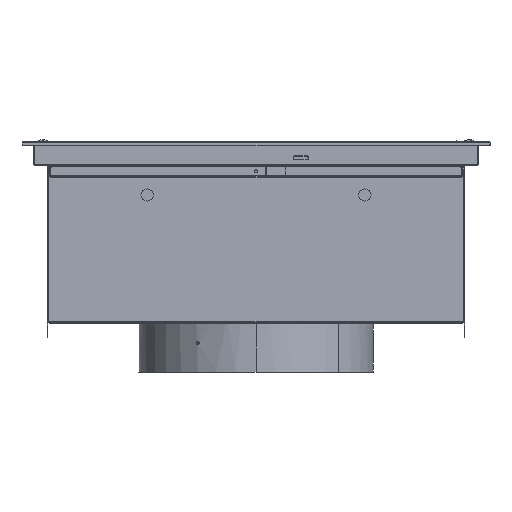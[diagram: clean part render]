
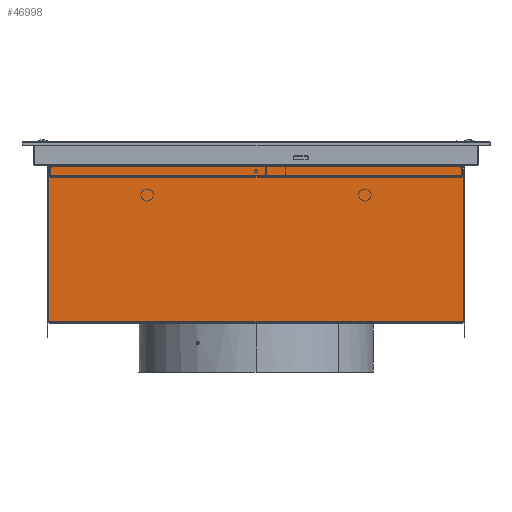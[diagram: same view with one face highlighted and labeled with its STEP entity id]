
A CAD part, left-side view. The second image highlights one B-rep face of the part: STEP entity #46998.
In plain terms, the highlighted planar face has unit normal (-1, 0, 0).
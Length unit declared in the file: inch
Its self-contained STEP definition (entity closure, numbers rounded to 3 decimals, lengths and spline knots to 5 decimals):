
#291 = DIRECTION ( 'NONE',  ( 0., 1., 0. ) ) ;
#1065 = DIRECTION ( 'NONE',  ( 0., -1., 0. ) ) ;
#1403 = DIRECTION ( 'NONE',  ( 0., 0., 1. ) ) ;
#1477 = AXIS2_PLACEMENT_3D ( 'NONE', #27658, #46900, #3301 ) ;
#2163 = CARTESIAN_POINT ( 'NONE',  ( -22.56225, -10.27664, -1.20739 ) ) ;
#3301 = DIRECTION ( 'NONE',  ( 0., 0., -1. ) ) ;
#3499 = LINE ( 'NONE', #15395, #42227 ) ;
#3785 = ORIENTED_EDGE ( 'NONE', *, *, #5216, .F. ) ;
#4364 = AXIS2_PLACEMENT_3D ( 'NONE', #43102, #26508, #10345 ) ;
#4616 = DIRECTION ( 'NONE',  ( 1., 0., 0. ) ) ;
#5174 = CARTESIAN_POINT ( 'NONE',  ( -22.56225, 10.52225, -9.137 ) ) ;
#5216 = EDGE_CURVE ( 'NONE', #24555, #15511, #20378, .T. ) ;
#5218 = EDGE_CURVE ( 'NONE', #19722, #28132, #36980, .T. ) ;
#5362 = CARTESIAN_POINT ( 'NONE',  ( -22.56225, -10.52225, -9.137 ) ) ;
#6010 = ORIENTED_EDGE ( 'NONE', *, *, #46976, .F. ) ;
#6694 = VERTEX_POINT ( 'NONE', #20562 ) ;
#7325 = DIRECTION ( 'NONE',  ( 0., 0., -1. ) ) ;
#7396 = CIRCLE ( 'NONE', #1477, 0.015 ) ;
#7590 = VERTEX_POINT ( 'NONE', #18681 ) ;
#7649 = CARTESIAN_POINT ( 'NONE',  ( -22.56225, -0.075, -1.5796 ) ) ;
#7881 = CARTESIAN_POINT ( 'NONE',  ( -22.56225, -10.50725, -1.45921 ) ) ;
#8053 = ORIENTED_EDGE ( 'NONE', *, *, #9496, .T. ) ;
#8638 = EDGE_CURVE ( 'NONE', #44943, #13071, #37493, .T. ) ;
#8679 = DIRECTION ( 'NONE',  ( 0., 1., 0. ) ) ;
#9496 = EDGE_CURVE ( 'NONE', #24555, #28267, #45511, .T. ) ;
#10345 = DIRECTION ( 'NONE',  ( 0., 0., -1. ) ) ;
#10505 = LINE ( 'NONE', #34544, #40082 ) ;
#10544 = ORIENTED_EDGE ( 'NONE', *, *, #32153, .T. ) ;
#10671 = AXIS2_PLACEMENT_3D ( 'NONE', #31628, #30863, #34782 ) ;
#10688 = CARTESIAN_POINT ( 'NONE',  ( -22.56225, -10.51786, -1.44861 ) ) ;
#10989 = LINE ( 'NONE', #51170, #44551 ) ;
#11171 = EDGE_CURVE ( 'NONE', #51298, #44346, #44542, .T. ) ;
#11517 = CARTESIAN_POINT ( 'NONE',  ( -22.56225, 0.075, -1.5046 ) ) ;
#11540 = AXIS2_PLACEMENT_3D ( 'NONE', #7881, #48298, #32711 ) ;
#11853 = EDGE_CURVE ( 'NONE', #7590, #6694, #7396, .T. ) ;
#13071 = VERTEX_POINT ( 'NONE', #40552 ) ;
#13294 = ORIENTED_EDGE ( 'NONE', *, *, #26187, .T. ) ;
#13372 = CARTESIAN_POINT ( 'NONE',  ( -22.56225, -10.26604, -1.203 ) ) ;
#13626 = FACE_BOUND ( 'NONE', #46700, .T. ) ;
#13846 = ORIENTED_EDGE ( 'NONE', *, *, #24161, .T. ) ;
#14137 = CARTESIAN_POINT ( 'NONE',  ( -22.56225, 10.56225, -1.203 ) ) ;
#14480 = DIRECTION ( 'NONE',  ( 0., 0., 1. ) ) ;
#14667 = DIRECTION ( 'NONE',  ( 0., -1., 0. ) ) ;
#15395 = CARTESIAN_POINT ( 'NONE',  ( -22.56225, -10.52225, -1.453 ) ) ;
#15511 = VERTEX_POINT ( 'NONE', #49667 ) ;
#15775 = DIRECTION ( 'NONE',  ( 1., 0., 0. ) ) ;
#16312 = VERTEX_POINT ( 'NONE', #2163 ) ;
#16411 = CARTESIAN_POINT ( 'NONE',  ( -22.56225, 10.56225, -1.203 ) ) ;
#16605 = AXIS2_PLACEMENT_3D ( 'NONE', #32634, #4616, #40813 ) ;
#16809 = CARTESIAN_POINT ( 'NONE',  ( -22.56225, -0.015, -1.203 ) ) ;
#17352 = DIRECTION ( 'NONE',  ( 0., 0., 1. ) ) ;
#17870 = CIRCLE ( 'NONE', #4364, 0.015 ) ;
#18681 = CARTESIAN_POINT ( 'NONE',  ( -22.56225, 10.51786, -1.44861 ) ) ;
#18712 = DIRECTION ( 'NONE',  ( 1., 0., 0. ) ) ;
#19722 = VERTEX_POINT ( 'NONE', #16809 ) ;
#20378 = LINE ( 'NONE', #36466, #51602 ) ;
#20562 = CARTESIAN_POINT ( 'NONE',  ( -22.56225, 10.52225, -1.45921 ) ) ;
#20842 = CIRCLE ( 'NONE', #11540, 0.015 ) ;
#21236 = AXIS2_PLACEMENT_3D ( 'NONE', #29788, #45840, #35257 ) ;
#22067 = VECTOR ( 'NONE', #1065, 39.37008 ) ;
#22087 = CARTESIAN_POINT ( 'NONE',  ( -22.56225, -10.52225, -1.45921 ) ) ;
#22541 = EDGE_CURVE ( 'NONE', #42830, #13071, #49820, .T. ) ;
#22678 = VERTEX_POINT ( 'NONE', #10688 ) ;
#22757 = ORIENTED_EDGE ( 'NONE', *, *, #33603, .T. ) ;
#23600 = ORIENTED_EDGE ( 'NONE', *, *, #38501, .T. ) ;
#24125 = CARTESIAN_POINT ( 'NONE',  ( -22.56225, 0.075, -1.5796 ) ) ;
#24126 = VECTOR ( 'NONE', #1403, 39.37008 ) ;
#24161 = EDGE_CURVE ( 'NONE', #22678, #16312, #3499, .T. ) ;
#24541 = ORIENTED_EDGE ( 'NONE', *, *, #43678, .T. ) ;
#24555 = VERTEX_POINT ( 'NONE', #51275 ) ;
#26187 = EDGE_CURVE ( 'NONE', #42830, #33365, #17870, .T. ) ;
#26504 = CARTESIAN_POINT ( 'NONE',  ( -22.56225, 10.27664, -1.20739 ) ) ;
#26508 = DIRECTION ( 'NONE',  ( -1., 0., 0. ) ) ;
#26615 = EDGE_CURVE ( 'NONE', #46414, #36874, #35633, .T. ) ;
#26631 = CIRCLE ( 'NONE', #40085, 0.113 ) ;
#27005 = DIRECTION ( 'NONE',  ( 0., 0., -1. ) ) ;
#27036 = ORIENTED_EDGE ( 'NONE', *, *, #11853, .T. ) ;
#27658 = CARTESIAN_POINT ( 'NONE',  ( -22.56225, 10.50725, -1.45921 ) ) ;
#27949 = EDGE_CURVE ( 'NONE', #19722, #44943, #26631, .T. ) ;
#28132 = VERTEX_POINT ( 'NONE', #13372 ) ;
#28267 = VERTEX_POINT ( 'NONE', #22087 ) ;
#28657 = CARTESIAN_POINT ( 'NONE',  ( -22.56225, 10.26604, -1.203 ) ) ;
#29028 = ORIENTED_EDGE ( 'NONE', *, *, #42161, .T. ) ;
#29313 = CIRCLE ( 'NONE', #10671, 0.015 ) ;
#29437 = ORIENTED_EDGE ( 'NONE', *, *, #27949, .T. ) ;
#29788 = CARTESIAN_POINT ( 'NONE',  ( -22.56225, 0., 0. ) ) ;
#30863 = DIRECTION ( 'NONE',  ( -1., 0., 0. ) ) ;
#30964 = LINE ( 'NONE', #47041, #42978 ) ;
#31528 = DIRECTION ( 'NONE',  ( 0., 0.707, 0.707 ) ) ;
#31628 = CARTESIAN_POINT ( 'NONE',  ( -22.56225, -10.26604, -1.218 ) ) ;
#32153 = EDGE_CURVE ( 'NONE', #28267, #22678, #20842, .T. ) ;
#32634 = CARTESIAN_POINT ( 'NONE',  ( -22.56225, 0., -1.5046 ) ) ;
#32711 = DIRECTION ( 'NONE',  ( 0., 0., -1. ) ) ;
#33365 = VERTEX_POINT ( 'NONE', #26504 ) ;
#33603 = EDGE_CURVE ( 'NONE', #16312, #28132, #29313, .T. ) ;
#33703 = PLANE ( 'NONE',  #21236 ) ;
#34544 = CARTESIAN_POINT ( 'NONE',  ( -22.56225, 0.075, -1.5046 ) ) ;
#34782 = DIRECTION ( 'NONE',  ( 0., 0., -1. ) ) ;
#35225 = ORIENTED_EDGE ( 'NONE', *, *, #22541, .F. ) ;
#35257 = DIRECTION ( 'NONE',  ( 0., 0., -1. ) ) ;
#35633 = LINE ( 'NONE', #44598, #49124 ) ;
#36466 = CARTESIAN_POINT ( 'NONE',  ( -22.56225, 10.56225, -9.137 ) ) ;
#36860 = ORIENTED_EDGE ( 'NONE', *, *, #11171, .T. ) ;
#36874 = VERTEX_POINT ( 'NONE', #24125 ) ;
#36980 = LINE ( 'NONE', #16411, #22067 ) ;
#37493 = CIRCLE ( 'NONE', #51032, 0.113 ) ;
#37655 = FACE_OUTER_BOUND ( 'NONE', #50296, .T. ) ;
#38501 = EDGE_CURVE ( 'NONE', #36874, #51298, #10505, .T. ) ;
#40028 = ORIENTED_EDGE ( 'NONE', *, *, #8638, .T. ) ;
#40082 = VECTOR ( 'NONE', #14480, 39.37008 ) ;
#40085 = AXIS2_PLACEMENT_3D ( 'NONE', #40595, #15775, #44817 ) ;
#40552 = CARTESIAN_POINT ( 'NONE',  ( -22.56225, 0.015, -1.203 ) ) ;
#40595 = CARTESIAN_POINT ( 'NONE',  ( -22.56225, 0., -1.091 ) ) ;
#40813 = DIRECTION ( 'NONE',  ( 0., 0., -1. ) ) ;
#41373 = LINE ( 'NONE', #5174, #45628 ) ;
#42123 = VECTOR ( 'NONE', #14667, 39.37008 ) ;
#42161 = EDGE_CURVE ( 'NONE', #44346, #46414, #30964, .T. ) ;
#42227 = VECTOR ( 'NONE', #31528, 39.37008 ) ;
#42830 = VERTEX_POINT ( 'NONE', #28657 ) ;
#42962 = CARTESIAN_POINT ( 'NONE',  ( -22.56225, 0., -1.204 ) ) ;
#42978 = VECTOR ( 'NONE', #27005, 39.37008 ) ;
#43102 = CARTESIAN_POINT ( 'NONE',  ( -22.56225, 10.26604, -1.218 ) ) ;
#43678 = EDGE_CURVE ( 'NONE', #33365, #7590, #10989, .T. ) ;
#44346 = VERTEX_POINT ( 'NONE', #46197 ) ;
#44542 = CIRCLE ( 'NONE', #16605, 0.075 ) ;
#44551 = VECTOR ( 'NONE', #50905, 39.37008 ) ;
#44598 = CARTESIAN_POINT ( 'NONE',  ( -22.56225, 0.075, -1.5796 ) ) ;
#44817 = DIRECTION ( 'NONE',  ( 0., 0., -1. ) ) ;
#44943 = VERTEX_POINT ( 'NONE', #42962 ) ;
#45511 = LINE ( 'NONE', #5362, #24126 ) ;
#45628 = VECTOR ( 'NONE', #17352, 39.37008 ) ;
#45840 = DIRECTION ( 'NONE',  ( 1., 0., 0. ) ) ;
#46197 = CARTESIAN_POINT ( 'NONE',  ( -22.56225, -0.075, -1.5046 ) ) ;
#46414 = VERTEX_POINT ( 'NONE', #7649 ) ;
#46700 = EDGE_LOOP ( 'NONE', ( #23600, #36860, #29028, #47295 ) ) ;
#46900 = DIRECTION ( 'NONE',  ( -1., 0., 0. ) ) ;
#46976 = EDGE_CURVE ( 'NONE', #15511, #6694, #41373, .T. ) ;
#46998 = ADVANCED_FACE ( 'Face1', ( #13626, #37655 ), #33703, .F. ) ;
#47041 = CARTESIAN_POINT ( 'NONE',  ( -22.56225, -0.075, -1.5796 ) ) ;
#47295 = ORIENTED_EDGE ( 'NONE', *, *, #26615, .T. ) ;
#48298 = DIRECTION ( 'NONE',  ( -1., 0., 0. ) ) ;
#48992 = ORIENTED_EDGE ( 'NONE', *, *, #5218, .F. ) ;
#49124 = VECTOR ( 'NONE', #8679, 39.37008 ) ;
#49667 = CARTESIAN_POINT ( 'NONE',  ( -22.56225, 10.52225, -9.137 ) ) ;
#49820 = LINE ( 'NONE', #14137, #42123 ) ;
#50296 = EDGE_LOOP ( 'NONE', ( #48992, #29437, #40028, #35225, #13294, #24541, #27036, #6010, #3785, #8053, #10544, #13846, #22757 ) ) ;
#50905 = DIRECTION ( 'NONE',  ( 0., 0.707, -0.707 ) ) ;
#51032 = AXIS2_PLACEMENT_3D ( 'NONE', #51453, #18712, #7325 ) ;
#51170 = CARTESIAN_POINT ( 'NONE',  ( -22.56225, 10.27225, -1.203 ) ) ;
#51275 = CARTESIAN_POINT ( 'NONE',  ( -22.56225, -10.52225, -9.137 ) ) ;
#51298 = VERTEX_POINT ( 'NONE', #11517 ) ;
#51453 = CARTESIAN_POINT ( 'NONE',  ( -22.56225, 0., -1.091 ) ) ;
#51602 = VECTOR ( 'NONE', #291, 39.37008 ) ;
